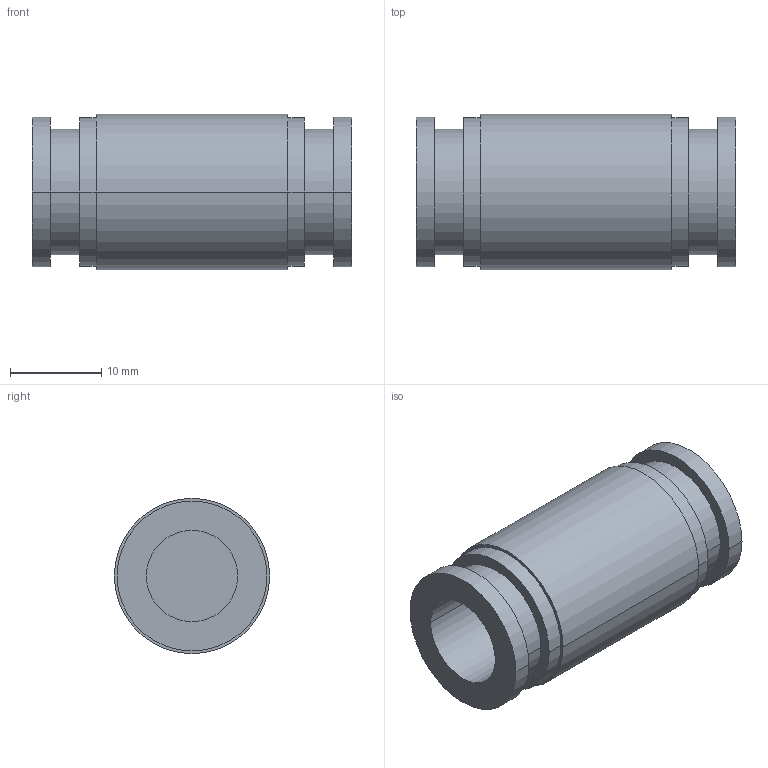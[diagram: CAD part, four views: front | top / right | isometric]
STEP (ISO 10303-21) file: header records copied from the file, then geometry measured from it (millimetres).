
FILE_DESCRIPTION( ( '' ), '1' );
FILE_NAME( 'G:/SMC狟婥/KQ2H10-00A.stp', '2023-03-07T02:56:58', ( '' ), ( '' ), ' ', ' ', ' ' );
FILE_SCHEMA( ( 'CONFIG_CONTROL_DESIGN' ) );
Length unit declared in the file: millimetre
Products named in the file (1): 1
Bounding box: 35 x 17 x 17 mm (x, y, z)
Volume: 4635.8 mm3; surface area: 3564.9 mm2
Topology: 1 solids, 1 shells, 28 faces, 54 edges, 36 vertices
Faces by surface type: cylinder 18, plane 10
Entity records: 778 total; most frequent: DIRECTION 148, CARTESIAN_POINT 119, ORIENTED_EDGE 108, AXIS2_PLACEMENT_3D 65, EDGE_CURVE 54, EDGE_LOOP 36, VERTEX_POINT 36, CIRCLE 36
